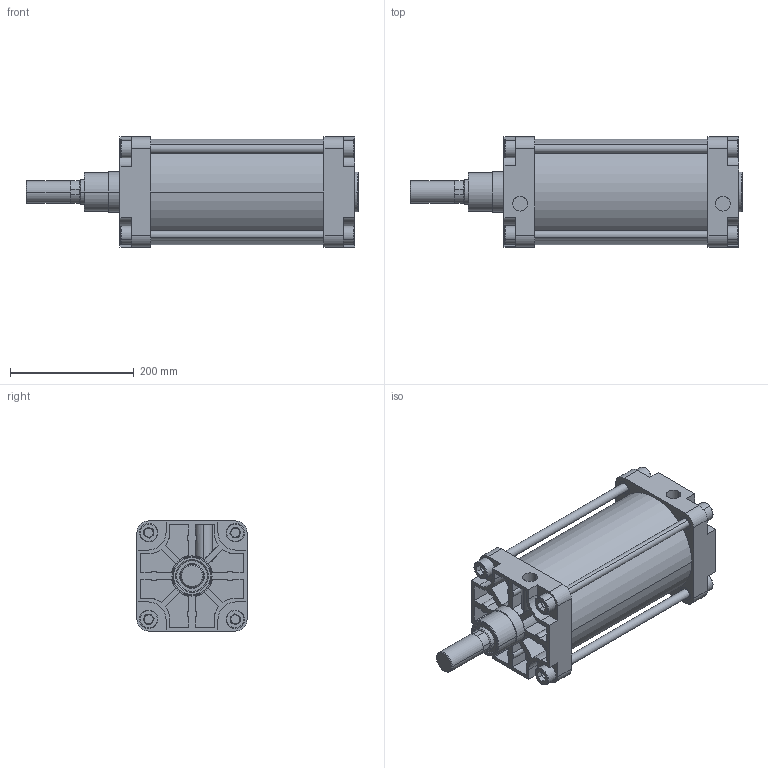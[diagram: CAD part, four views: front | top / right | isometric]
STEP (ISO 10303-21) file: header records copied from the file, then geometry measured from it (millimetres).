
FILE_DESCRIPTION(('CATIA V5 STEP Exchange'),'2;1');
FILE_NAME('D:\stp file for catalog\PNC\160\PNC 160-40-200-00.stp','2015-09-13T12:20:06+00:00',('none'),('none'),'Version 5-6 Release 2012','CATIA V5 STEP AP203','none');
FILE_SCHEMA(('CONFIG_CONTROL_DESIGN'));
Length unit declared in the file: millimetre
Products named in the file (1): PNC 160-40-200-00
Assembly tree (2 placements, depth 2):
  PNC 160-40-200-00
    #58
    #14957
Bounding box: 537 x 178 x 178 mm (x, y, z)
Volume: 5134844.6 mm3; surface area: 845712 mm2
Topology: 6 solids, 6 shells, 583 faces, 1428 edges, 932 vertices
Faces by surface type: plane 349, cylinder 186, torus 26, extrusion 16, cone 6
Entity records: 15847 total; most frequent: CARTESIAN_POINT 3275, ORIENTED_EDGE 2856, DIRECTION 1940, EDGE_CURVE 1428, VERTEX_POINT 932, VECTOR 930, LINE 914, AXIS2_PLACEMENT_3D 715
